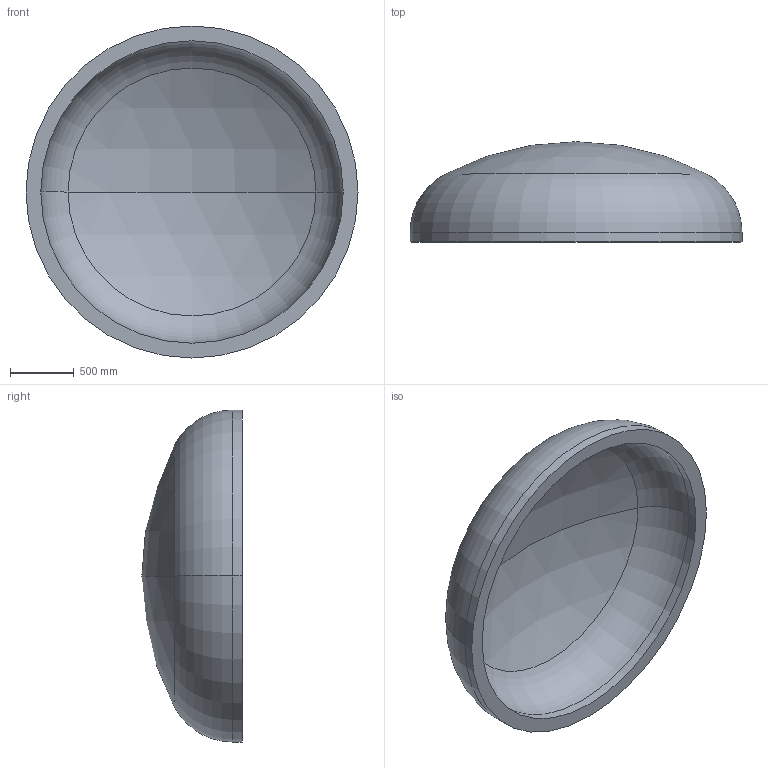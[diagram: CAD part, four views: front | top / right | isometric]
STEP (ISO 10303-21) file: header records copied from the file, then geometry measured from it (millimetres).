
FILE_DESCRIPTION (( 'STEP AP203' ), '1' );
FILE_NAME ('DIN 28013 Korbbogenform_-_Boden DIN 28013 - 2600 x 75 - I - s=116.step', '2016-07-01T16:35:42', ( '' ), ( '' ), 'SwSTEP 2.0', 'SolidWorks 2013', '' );
FILE_SCHEMA (( 'CONFIG_CONTROL_DESIGN' ));
Length unit declared in the file: millimetre
Products named in the file (1): DIN 28013 Korbbogenform_-_Boden DIN 28013 - 2600 x 75 - I - s=116
Bounding box: 2600 x 785.15 x 2600 mm (x, y, z)
Volume: 872977123.3 mm3; surface area: 15984738.4 mm2
Topology: 1 solids, 1 shells, 13 faces, 24 edges, 14 vertices
Faces by surface type: torus 4, cylinder 4, sphere 4, plane 1
Entity records: 407 total; most frequent: DIRECTION 72, CARTESIAN_POINT 52, ORIENTED_EDGE 48, AXIS2_PLACEMENT_3D 34, EDGE_CURVE 24, CIRCLE 20, EDGE_LOOP 14, VERTEX_POINT 14
